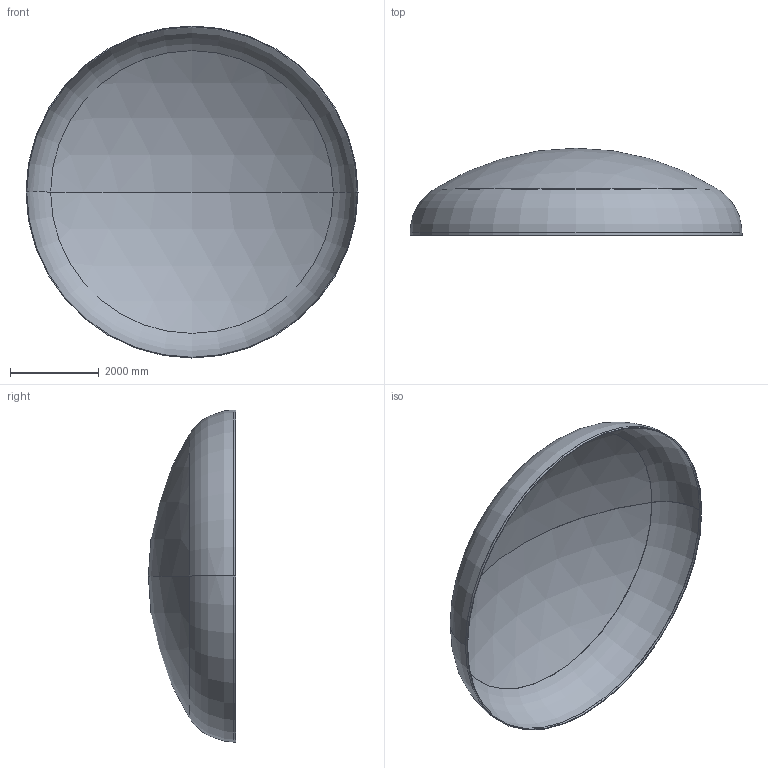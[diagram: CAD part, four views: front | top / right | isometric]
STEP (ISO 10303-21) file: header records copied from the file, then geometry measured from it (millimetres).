
FILE_DESCRIPTION (( 'STEP AP203' ), '1' );
FILE_NAME ('DIN 28013 Korbbogenform_-_Boden DIN 28013 - 7500 x 55 - I - s=16.step', '2016-07-04T10:51:45', ( '' ), ( '' ), 'SwSTEP 2.0', 'SolidWorks 2013', '' );
FILE_SCHEMA (( 'CONFIG_CONTROL_DESIGN' ));
Length unit declared in the file: millimetre
Products named in the file (1): DIN 28013 Korbbogenform_-_Boden DIN 28013 - 7500 x 55 - I - s=16
Bounding box: 7500 x 1969.44 x 7500 mm (x, y, z)
Volume: 997008022.1 mm3; surface area: 125002674.5 mm2
Topology: 1 solids, 1 shells, 13 faces, 24 edges, 14 vertices
Faces by surface type: torus 4, cylinder 4, sphere 4, plane 1
Entity records: 407 total; most frequent: DIRECTION 72, CARTESIAN_POINT 52, ORIENTED_EDGE 48, AXIS2_PLACEMENT_3D 34, EDGE_CURVE 24, CIRCLE 20, EDGE_LOOP 14, VERTEX_POINT 14
